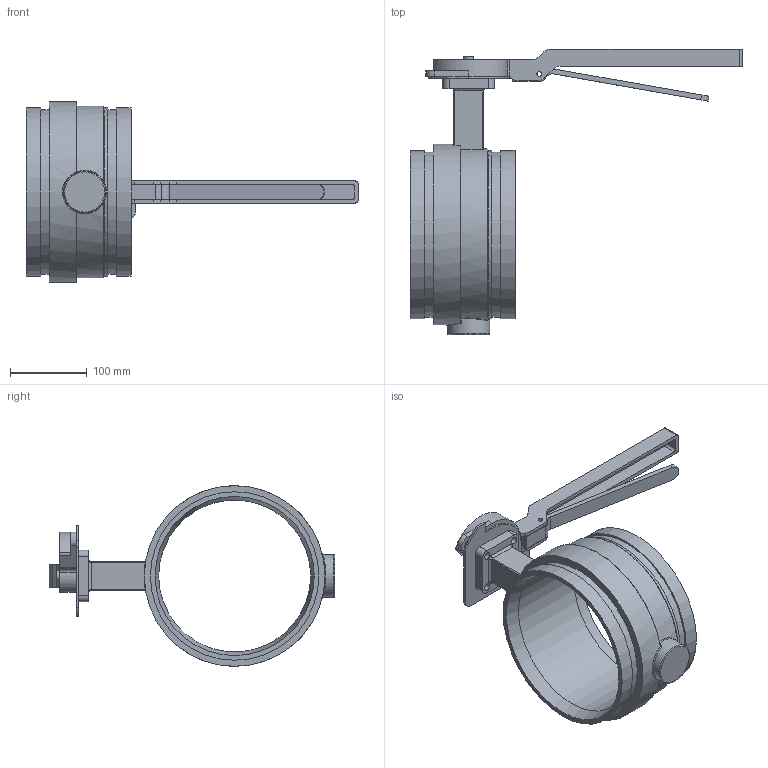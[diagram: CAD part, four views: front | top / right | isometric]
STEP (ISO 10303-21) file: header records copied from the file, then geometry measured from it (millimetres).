
FILE_DESCRIPTION(/* description */ ('Vic Series 461 Vic-300 SS w/ Lever Handle Butterfly Valve','CAx-IF Rec.Pracs.---Representation and Presentation of Product Manufacturing Information (PMI)---4.0---2014-10-13'),/* implementation_level */ '2;1');
FILE_NAME(/* name */ 'C:\Users\kkamble\AppData\Roaming\Autodesk\ApplicationPlugins\Back Up\Victaulic_SS-OGS_Valve Butterfly Vic-300 Masterseal Lever Handle_Series 461 (OGS)\Victaulic_SS-OGS_Valve Butterfly Vic-300 Masterseal Lever Handle_8 (200).stp',/* time_stamp */ '2020-09-02T14:52:41+05:00',/* author */ ('jbrannon'),/* organization */ ('Victaulic'),/* preprocessor_version */ 'ST-DEVELOPER v17.2',/* originating_system */ 'Autodesk Inventor 2019',/* authorisation */ '');
FILE_SCHEMA (('AP242_MANAGED_MODEL_BASED_3D_ENGINEERING_MIM_LF { 1 0 10303 442 1 1 4 }'));
Length unit declared in the file: inch
Products named in the file (5): 461-08.0; 461-08.0_1; 461-08.0_2; 461-LEVERLOCK; 461-LEVERLOCK2
Assembly tree (4 placements, depth 2):
  461-08.0
    461-08.0_1
    461-08.0_2
    461-LEVERLOCK
    461-LEVERLOCK2
Bounding box: 431.8 x 371.59 x 234.95 mm (x, y, z)
Volume: 1612671.2 mm3; surface area: 333721.4 mm2
Topology: 4 solids, 4 shells, 192 faces, 571 edges, 458 vertices
Faces by surface type: cylinder 84, plane 71, bspline 18, torus 13, sphere 4, cone 2
Full cylindrical faces by diameter (mm): 6.35 x4, 9.652 x7, 10.668 x1, 12.7 x2, 23.876 x1, 54.102 x1, 54.864 x1, 197.612 x1, 214.401 x2, 219.075 x3, 234.95 x1
Entity records: 7331 total; most frequent: CARTESIAN_POINT 1887, DIRECTION 1098, ORIENTED_EDGE 996, EDGE_CURVE 498, AXIS2_PLACEMENT_3D 428, VERTEX_POINT 321, CIRCLE 244, LINE 242
